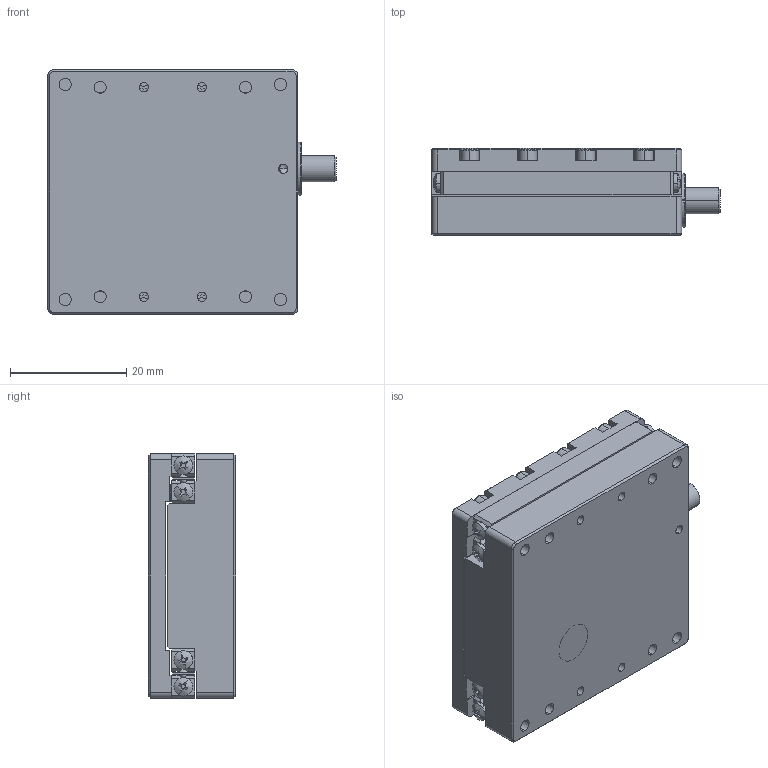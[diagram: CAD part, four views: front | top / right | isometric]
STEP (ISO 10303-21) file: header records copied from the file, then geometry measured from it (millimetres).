
FILE_DESCRIPTION (( 'STEP AP214' ), '1' );
FILE_NAME ('N56.20E-B1闭环直线压电马达(23.04.06）.STEP', '2026-05-27T06:22:10', ( '微软用户' ), ( '微软中国' ), 'SwSTEP 2.0', 'SolidWorks 2016', '' );
FILE_SCHEMA (( 'AUTOMOTIVE_DESIGN' ));
Length unit declared in the file: millimetre
Products named in the file (1): N56.20E-B1闭环直线压电马达(23.04.06）
Bounding box: 49.6 x 15 x 42 mm (x, y, z)
Volume: 19070.1 mm3; surface area: 17290.4 mm2
Topology: 51 solids, 51 shells, 1175 faces, 2952 edges, 1918 vertices
Faces by surface type: plane 578, cylinder 485, cone 72, bspline 40
Entity records: 36619 total; most frequent: CARTESIAN_POINT 7518, DIRECTION 6027, ORIENTED_EDGE 5816, EDGE_CURVE 2908, AXIS2_PLACEMENT_3D 2229, VERTEX_POINT 1918, VECTOR 1569, LINE 1569
